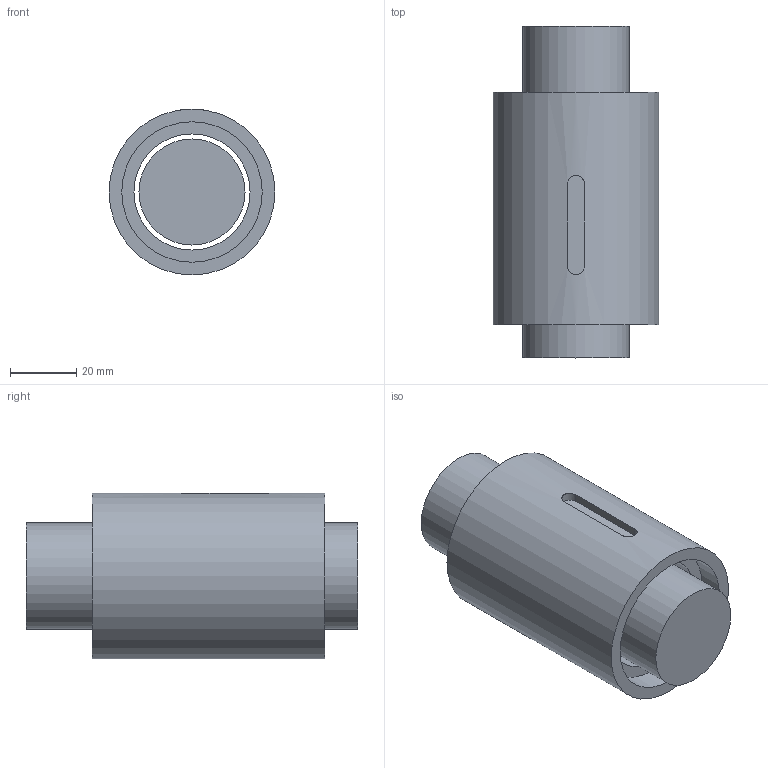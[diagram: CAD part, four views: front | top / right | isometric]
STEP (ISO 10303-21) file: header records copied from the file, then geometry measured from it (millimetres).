
FILE_DESCRIPTION(/* description */ (''),/* implementation_level */ '2;1');
FILE_NAME(/* name */ '3210.prt.step',/* time_stamp */ '2008-12-05T16:34:22+08:00',/* author */ (''),/* organization */ (''),/* preprocessor_version */ 'ST-DEVELOPER v11',/* originating_system */ 'SIEMENS UGS NX 6.0',/* authorisation */ '');
FILE_SCHEMA (('AUTOMOTIVE_DESIGN { 1 0 10303 214 1 1 1 1 }'));
Length unit declared in the file: millimetre
Products named in the file (1): 3210
Bounding box: 50 x 100 x 50 mm (x, y, z)
Volume: 143355.4 mm3; surface area: 32832.3 mm2
Topology: 2 solids, 2 shells, 16 faces, 28 edges, 19 vertices
Faces by surface type: plane 9, cylinder 7
Full cylindrical faces by diameter (mm): 31.95 x1, 35 x1, 42.3 x2, 50 x1
Entity records: 448 total; most frequent: CARTESIAN_POINT 117, DIRECTION 66, ORIENTED_EDGE 44, AXIS2_PLACEMENT_3D 29, EDGE_LOOP 26, EDGE_CURVE 22, FACE_BOUND 19, VERTEX_POINT 18
